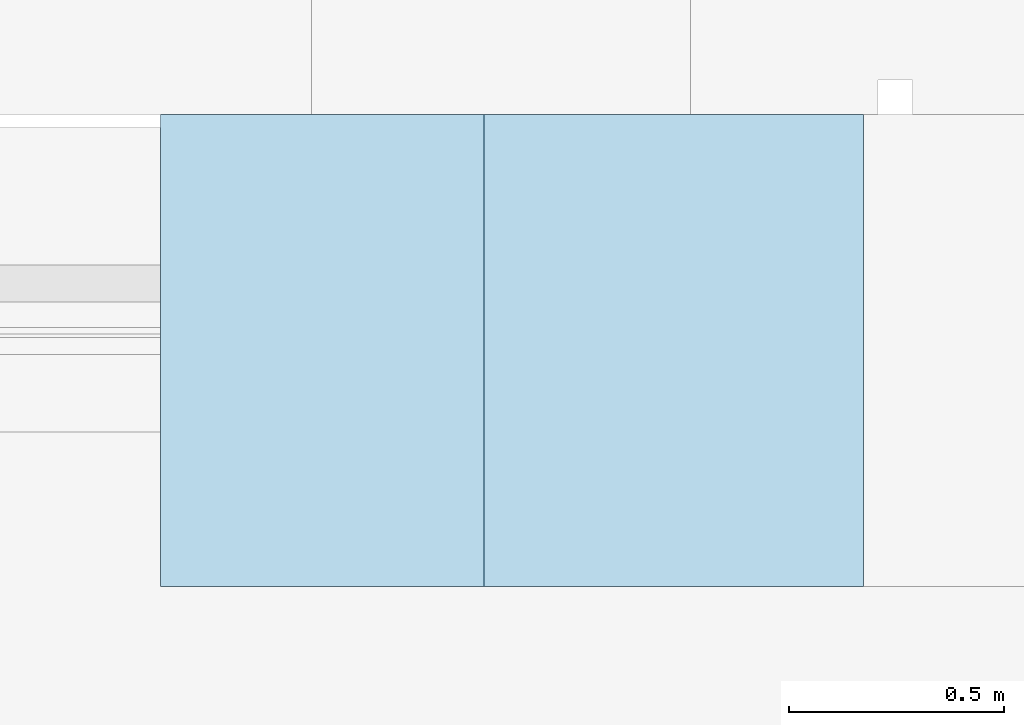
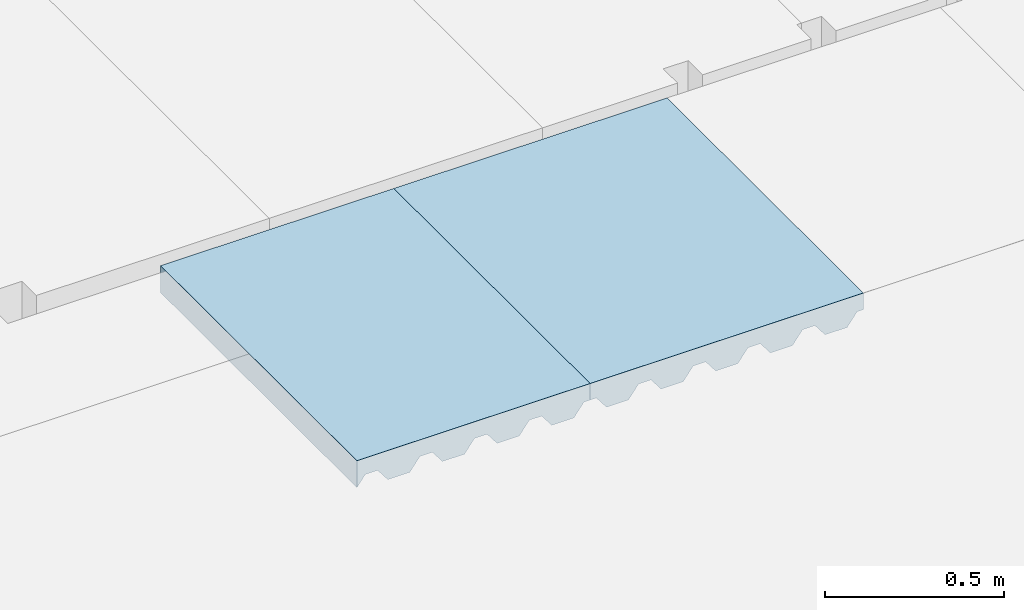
# One storey, part 9 of 13: 2 slabs.
"""IFC2X3 building model written with IfcOpenShell, lengths in millimetres."""

from ifc_helpers import new_model, entity, si_unit, converted_unit, derived_unit, direction, frame, origin_with_axes, place, context, subcontext, project, spatial, faceted_brep, material, type_object, element, save


model = new_model("IFC2X3")

# Units and contexts
model_context = context("Model", 3, precision=0.01, world=frame((0.0, 4.29681676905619e-09, 0.0)), true_north=direction((4.01073788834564e-13, 1.0)))
plan_context = context("Plan", 3, precision=0.01, world=frame((0.0, 4.29681676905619e-09, 0.0)), true_north=direction((4.01073788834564e-13, 1.0)))
body_context = subcontext(model_context, "Body", "Model", "MODEL_VIEW")
ifc_project = project(units=[converted_unit("PLANEANGLEUNIT", "DEGREE", entity("IfcPositiveLengthMeasure", 0.0174532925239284), si_unit("PLANEANGLEUNIT", "RADIAN"), dimensions=[0, 0, 0, 0, 0, 0, 0]), si_unit("AREAUNIT", "SQUARE_METRE"), si_unit("LENGTHUNIT", "METRE", prefix="MILLI"), si_unit("MASSUNIT", "GRAM", prefix="KILO"), si_unit("POWERUNIT", "WATT"), si_unit("PRESSUREUNIT", "PASCAL", prefix="KILO"), si_unit("FORCEUNIT", "NEWTON", prefix="KILO"), si_unit("ELECTRICVOLTAGEUNIT", "VOLT"), si_unit("ELECTRICCURRENTUNIT", "AMPERE"), si_unit("THERMODYNAMICTEMPERATUREUNIT", "DEGREE_CELSIUS"), si_unit("TIMEUNIT", "SECOND"), si_unit("VOLUMEUNIT", "CUBIC_METRE"), derived_unit("LINEARVELOCITYUNIT", [(si_unit("LENGTHUNIT", "METRE"), 1), (si_unit("TIMEUNIT", "SECOND"), -1)]), derived_unit("VOLUMETRICFLOWRATEUNIT", [(si_unit("VOLUMEUNIT", "CUBIC_METRE"), 1), (si_unit("TIMEUNIT", "SECOND"), -1)]), derived_unit("THERMALTRANSMITTANCEUNIT", [(si_unit("POWERUNIT", "WATT"), 1), (si_unit("THERMODYNAMICTEMPERATUREUNIT", "KELVIN"), -1), (si_unit("AREAUNIT", "SQUARE_METRE"), -1)]), derived_unit("SOUNDPRESSUREUNIT", [(si_unit("PRESSUREUNIT", "PASCAL"), 1)])], contexts=[model_context, plan_context])

# Site, building, storey
site_placement = place(None, frame((0.0, -4.29681676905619e-09, 0.0), z_axis=(0.0, 0.0, 1.0), x_axis=(1.0, 0.0, 0.0)))
site = spatial("IfcSite", under=ifc_project, at=site_placement, Name="Gardermoen", CompositionType="ELEMENT")
building_placement = place(site_placement, frame((0.0, 4.29681676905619e-09, 0.0), z_axis=(0.0, 0.0, 1.0), x_axis=(1.0, 0.0, 0.0)))
building = spatial("IfcBuilding", under=site, at=building_placement, Name="TG", CompositionType="ELEMENT")
storey_placement = place(building_placement, origin_with_axes())
storey = spatial("IfcBuildingStorey", under=building, at=storey_placement, Name="G", CompositionType="ELEMENT", Elevation=0.0)

# Slabs
ifc_material = material(Name="CONCRETE/C35/45")
slab_type = type_object("IfcSlabType", Name="PLNJABE56.4*40*42.6*71*32.5", PredefinedType="NOTDEFINED")
slab_1_placement = place(storey_placement, frame((324676.0017314, 462614.999534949, 213610.5), z_axis=(0.0, 0.0, 1.0), x_axis=(-1.7069999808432e-06, -0.999999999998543, 0.0)))
element("IfcSlab", 1, at=slab_1_placement, inside=storey, type_object=slab_type, material=ifc_material, Name="PLASSTØPTDEKKE", ObjectType="PLNJABE56.4*40*42.6*71*32.5", PredefinedType="FLOOR", context=body_context, shape_type="Brep", body=[
    faceted_brep([(5.23868948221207e-10, -284.000000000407, -6.89999999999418), (4.07453626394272e-10, -244.000000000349, -6.89999999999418), (1095.00205200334, -243.999999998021, -6.89999999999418), (1095.00205200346, -283.999999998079, -6.89999999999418), (3.49245965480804e-10, -211.500000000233, -49.5), (1095.00205200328, -211.499999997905, -49.5), (2.3283064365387e-10, -140.500000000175, -49.5), (1095.00205200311, -140.499999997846, -49.5), (1.16415321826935e-10, -108.000000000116, -6.89999999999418), (1095.00205200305, -107.999999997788, -6.89999999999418), (5.82076609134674e-11, -68.0000000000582, -6.89999999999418), (1095.00205200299, -67.9999999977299, -6.89999999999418), (0.0, -35.5000000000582, -49.5), (1095.00205200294, -35.4999999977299, -49.5), (-1.74622982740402e-10, 35.5000000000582, -49.5), (1095.00205200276, 35.5000000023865, -49.5), (-2.3283064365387e-10, 68.0000000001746, -6.89999999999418), (1095.0020520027, 68.0000000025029, -6.89999999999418), (-3.49245965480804e-10, 108.000000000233, -6.89999999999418), (1095.00205200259, 108.000000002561, -6.89999999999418), (-4.07453626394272e-10, 140.500000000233, -49.5), (1095.00205200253, 140.500000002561, -49.5), (-5.23868948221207e-10, 211.500000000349, -49.5), (1095.00205200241, 211.500000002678, -49.5), (-5.82076609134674e-10, 244.000000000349, -6.89999999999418), (1095.0020520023, 244.000000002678, -6.89999999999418), (-6.98491930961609e-10, 284.000000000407, -6.89999999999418), (1095.00205200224, 284.000000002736, -6.89999999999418), (-7.56699591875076e-10, 316.500000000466, -49.5), (1095.00205200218, 316.500000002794, -49.5), (-9.31322574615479e-10, 387.50000000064, -49.5), (1095.002052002, 387.500000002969, -49.5), (-9.89530235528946e-10, 420.00000000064, -6.89999999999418), (1095.00205200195, 420.000000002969, -6.89999999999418), (-1.04773789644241e-09, 440.00000000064, -6.89999999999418), (1095.00205200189, 440.000000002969, -6.89999999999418), (-1.04773789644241e-09, 440.00000000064, 49.5), (1095.00205200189, 440.000000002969, 49.5), (1095.00205200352, -310.999862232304, 49.5), (1095.00205200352, -310.999862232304, -42.2905886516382), (5.82076609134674e-10, -311.001731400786, -42.2930386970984), (5.82076609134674e-10, -311.001731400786, 49.5)], [[[0, 1, 2, 3]], [[1, 4, 5, 2]], [[4, 6, 7, 5]], [[6, 8, 9, 7]], [[8, 10, 11, 9]], [[10, 12, 13, 11]], [[12, 14, 15, 13]], [[14, 16, 17, 15]], [[16, 18, 19, 17]], [[18, 20, 21, 19]], [[20, 22, 23, 21]], [[22, 24, 25, 23]], [[24, 26, 27, 25]], [[26, 28, 29, 27]], [[28, 30, 31, 29]], [[30, 32, 33, 31]], [[32, 34, 35, 33]], [[34, 36, 37, 35]], [[3, 2, 5, 7, 9, 11, 13, 15, 17, 19, 21, 23, 25, 27, 29, 31, 33, 35, 37, 38, 39]], [[0, 3, 39, 40]], [[36, 34, 32, 30, 28, 26, 24, 22, 20, 18, 16, 14, 12, 10, 8, 6, 4, 1, 0, 40, 41]], [[37, 36, 41, 38]], [[40, 39, 38, 41]]]),
])
slab_2_placement = place(storey_placement, frame((325556.0017314, 462614.999534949, 213610.5), z_axis=(0.0, 0.0, 1.0), x_axis=(-1.7069999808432e-06, -0.999999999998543, 0.0)))
element("IfcSlab", 2, at=slab_2_placement, inside=storey, type_object=slab_type, material=ifc_material, Name="PLASSTØPTDEKKE", ObjectType="PLNJABE56.4*40*42.6*71*32.5", PredefinedType="FLOOR", context=body_context, shape_type="Brep", body=[
    faceted_brep([(-9.89530235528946e-10, 420.00000000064, -6.89999999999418), (-1.04773789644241e-09, 440.00000000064, -6.89999999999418), (1095.00205200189, 440.000000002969, -6.89999999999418), (1095.00205200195, 420.000000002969, -6.89999999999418), (-1.04773789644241e-09, 440.00000000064, 49.5), (1095.00205200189, 440.000000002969, 49.5), (8.14907252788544e-10, -440.00000000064, 49.5), (1095.00205200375, -439.999999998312, 49.5), (8.14907252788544e-10, -440.00000000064, -6.89999999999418), (1095.00205200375, -439.999999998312, -6.89999999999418), (8.14907252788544e-10, -420.000000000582, -6.89999999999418), (1095.00205200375, -419.999999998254, -6.89999999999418), (7.56699591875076e-10, -387.500000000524, -49.5), (1095.00205200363, -387.499999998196, -49.5), (5.82076609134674e-10, -316.500000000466, -49.5), (1095.00205200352, -316.499999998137, -49.5), (5.23868948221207e-10, -284.000000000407, -6.89999999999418), (1095.00205200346, -283.999999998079, -6.89999999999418), (4.07453626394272e-10, -244.000000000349, -6.89999999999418), (1095.00205200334, -243.999999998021, -6.89999999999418), (3.49245965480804e-10, -211.500000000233, -49.5), (1095.00205200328, -211.499999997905, -49.5), (2.3283064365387e-10, -140.500000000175, -49.5), (1095.00205200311, -140.499999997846, -49.5), (1.16415321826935e-10, -108.000000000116, -6.89999999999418), (1095.00205200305, -107.999999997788, -6.89999999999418), (5.82076609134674e-11, -68.0000000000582, -6.89999999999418), (1095.00205200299, -67.9999999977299, -6.89999999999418), (0.0, -35.5000000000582, -49.5), (1095.00205200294, -35.4999999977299, -49.5), (-1.74622982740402e-10, 35.5000000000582, -49.5), (1095.00205200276, 35.5000000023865, -49.5), (-2.3283064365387e-10, 68.0000000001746, -6.89999999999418), (1095.0020520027, 68.0000000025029, -6.89999999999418), (-3.49245965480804e-10, 108.000000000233, -6.89999999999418), (1095.00205200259, 108.000000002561, -6.89999999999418), (-4.07453626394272e-10, 140.500000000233, -49.5), (1095.00205200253, 140.500000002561, -49.5), (-5.23868948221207e-10, 211.500000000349, -49.5), (1095.00205200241, 211.500000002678, -49.5), (-5.82076609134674e-10, 244.000000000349, -6.89999999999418), (1095.0020520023, 244.000000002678, -6.89999999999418), (-6.98491930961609e-10, 284.000000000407, -6.89999999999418), (1095.00205200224, 284.000000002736, -6.89999999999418), (-7.56699591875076e-10, 316.500000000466, -49.5), (1095.00205200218, 316.500000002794, -49.5), (-9.31322574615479e-10, 387.50000000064, -49.5), (1095.002052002, 387.500000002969, -49.5)], [[[0, 1, 2, 3]], [[1, 4, 5, 2]], [[4, 6, 7, 5]], [[6, 8, 9, 7]], [[8, 10, 11, 9]], [[10, 12, 13, 11]], [[12, 14, 15, 13]], [[14, 16, 17, 15]], [[16, 18, 19, 17]], [[18, 20, 21, 19]], [[20, 22, 23, 21]], [[22, 24, 25, 23]], [[24, 26, 27, 25]], [[26, 28, 29, 27]], [[28, 30, 31, 29]], [[30, 32, 33, 31]], [[32, 34, 35, 33]], [[34, 36, 37, 35]], [[36, 38, 39, 37]], [[38, 40, 41, 39]], [[40, 42, 43, 41]], [[42, 44, 45, 43]], [[44, 46, 47, 45]], [[46, 0, 3, 47]], [[5, 7, 9, 11, 13, 15, 17, 19, 21, 23, 25, 27, 29, 31, 33, 35, 37, 39, 41, 43, 45, 47, 3, 2]], [[46, 44, 42, 40, 38, 36, 34, 32, 30, 28, 26, 24, 22, 20, 18, 16, 14, 12, 10, 8, 6, 4, 1, 0]]]),
])

save(model, "model.ifc")
